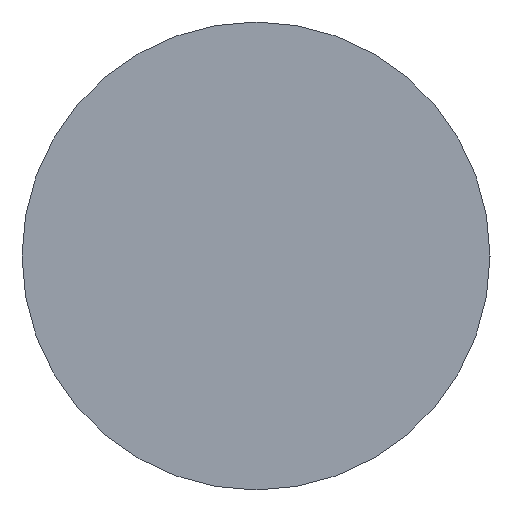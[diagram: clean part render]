
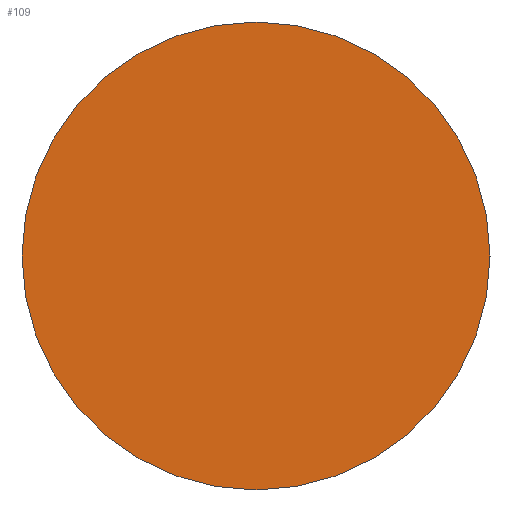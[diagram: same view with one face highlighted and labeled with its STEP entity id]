
A CAD part, left-side view. The second image highlights one B-rep face of the part: STEP entity #109.
In plain terms, the highlighted planar face has unit normal (-1, 0, 0).
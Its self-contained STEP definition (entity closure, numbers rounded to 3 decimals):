
#31 = CYLINDRICAL_SURFACE('',#32,0.6);
#32 = AXIS2_PLACEMENT_3D('',#33,#34,#35);
#33 = CARTESIAN_POINT('',(388.5,-13.435,-13.435));
#34 = DIRECTION('',(1.,0.,0.));
#35 = DIRECTION('',(-0.,0.,1.));
#56 = VERTEX_POINT('',#57);
#57 = CARTESIAN_POINT('',(388.5,-13.435,-12.835));
#78 = EDGE_CURVE('',#56,#56,#79,.T.);
#79 = SURFACE_CURVE('',#80,(#85,#92),.PCURVE_S1.);
#80 = CIRCLE('',#81,0.6);
#81 = AXIS2_PLACEMENT_3D('',#82,#83,#84);
#82 = CARTESIAN_POINT('',(388.5,-13.435,-13.435));
#83 = DIRECTION('',(1.,0.,0.));
#84 = DIRECTION('',(-0.,0.,1.));
#85 = PCURVE('',#31,#86);
#86 = DEFINITIONAL_REPRESENTATION('',(#87),#91);
#87 = LINE('',#88,#89);
#88 = CARTESIAN_POINT('',(0.,0.));
#89 = VECTOR('',#90,1.);
#90 = DIRECTION('',(1.,0.));
#91 = ( GEOMETRIC_REPRESENTATION_CONTEXT(2) 
PARAMETRIC_REPRESENTATION_CONTEXT() REPRESENTATION_CONTEXT('2D SPACE',''
  ) );
#92 = PCURVE('',#93,#98);
#93 = PLANE('',#94);
#94 = AXIS2_PLACEMENT_3D('',#95,#96,#97);
#95 = CARTESIAN_POINT('',(388.5,-13.435,-13.435));
#96 = DIRECTION('',(1.,0.,0.));
#97 = DIRECTION('',(-0.,0.,1.));
#98 = DEFINITIONAL_REPRESENTATION('',(#99),#103);
#99 = CIRCLE('',#100,0.6);
#100 = AXIS2_PLACEMENT_2D('',#101,#102);
#101 = CARTESIAN_POINT('',(0.,0.));
#102 = DIRECTION('',(1.,0.));
#103 = ( GEOMETRIC_REPRESENTATION_CONTEXT(2) 
PARAMETRIC_REPRESENTATION_CONTEXT() REPRESENTATION_CONTEXT('2D SPACE',''
  ) );
#109 = ADVANCED_FACE('',(#110),#93,.F.);
#110 = FACE_BOUND('',#111,.T.);
#111 = EDGE_LOOP('',(#112));
#112 = ORIENTED_EDGE('',*,*,#78,.F.);
